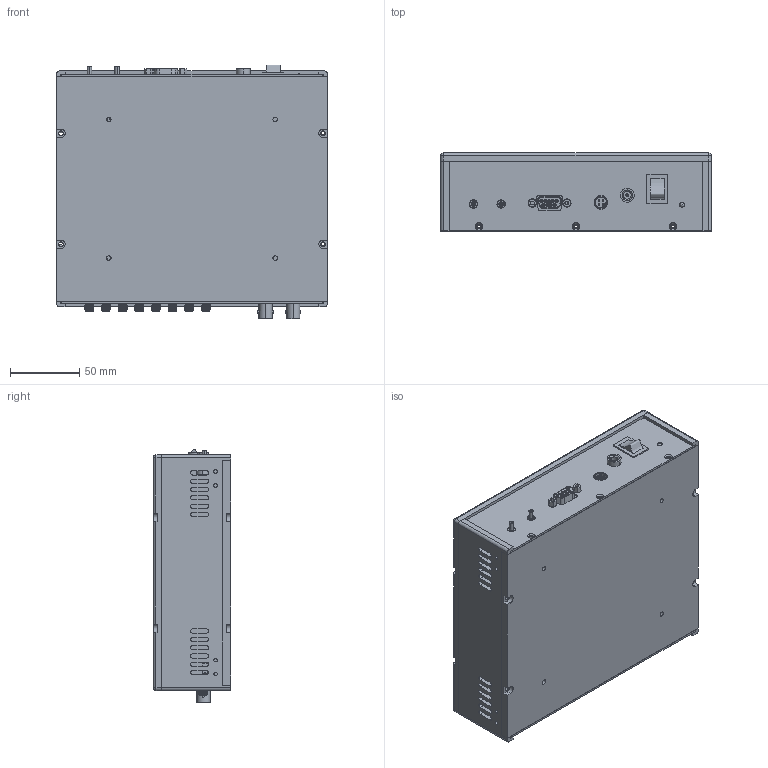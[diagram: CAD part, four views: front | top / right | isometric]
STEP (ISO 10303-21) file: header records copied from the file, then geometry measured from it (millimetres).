
FILE_DESCRIPTION (( 'STEP AP203' ), '1' );
FILE_NAME ('E80.C2K-H.STEP', '2025-07-16T00:43:02', ( 'China' ), ( 'Home' ), 'SwSTEP 2.0', 'SolidWorks 2016', '' );
FILE_SCHEMA (( 'CONFIG_CONTROL_DESIGN' ));
Length unit declared in the file: millimetre
Products named in the file (1): E80.C2K-H
Bounding box: 195 x 56 x 183.01 mm (x, y, z)
Surface area: 208146.3 mm2 (no closed solid volume)
Topology: 0 solids, 62 shells, 915 faces, 3064 edges, 2213 vertices
Faces by surface type: cylinder 599, plane 224, cone 68, bspline 9, torus 8, sphere 7
Entity records: 37479 total; most frequent: CARTESIAN_POINT 10672, DIRECTION 5825, ORIENTED_EDGE 4944, EDGE_CURVE 3053, AXIS2_PLACEMENT_3D 2288, VERTEX_POINT 2209, CIRCLE 1381, EDGE_LOOP 1303
